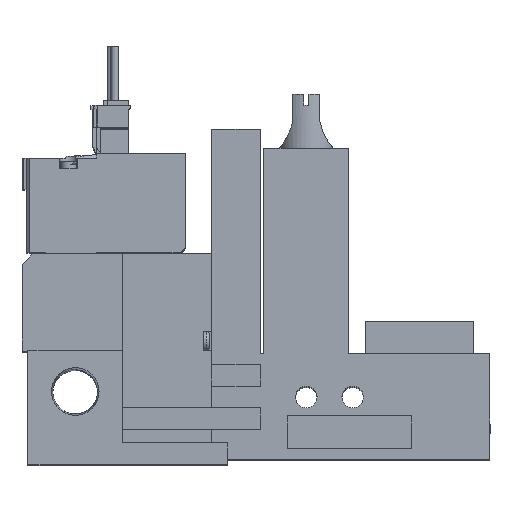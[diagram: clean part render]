
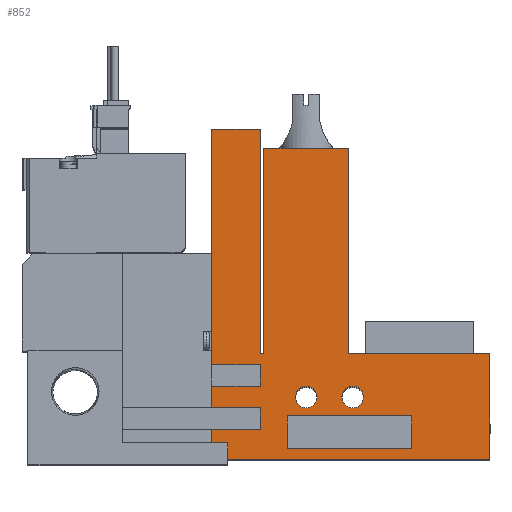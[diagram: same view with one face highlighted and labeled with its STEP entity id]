
A CAD part, top view. The second image highlights one B-rep face of the part: STEP entity #852.
In plain terms, the highlighted planar face has unit normal (0, 0, 1).
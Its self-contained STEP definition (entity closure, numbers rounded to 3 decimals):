
#852=ADVANCED_FACE('',(#1669,#1670,#1671,#1672),#1673,.T.);
#1669=FACE_OUTER_BOUND('',#2768,.T.);
#1670=FACE_BOUND('',#2769,.T.);
#1671=FACE_BOUND('',#2770,.T.);
#1672=FACE_BOUND('',#2771,.T.);
#1673=PLANE('',#2772);
#2768=EDGE_LOOP('',(#5745,#5746,#5747,#5748,#5749,#5750,#5751,#5752,#5753,#5754,#5755,#5756,#5757,#5758,#5759,#5760,#5761,#5762));
#2769=EDGE_LOOP('',(#5763,#5764,#5765,#5766));
#2770=EDGE_LOOP('',(#5767));
#2771=EDGE_LOOP('',(#5768));
#2772=AXIS2_PLACEMENT_3D('',#5769,#5770,#5771);
#5745=ORIENTED_EDGE('',*,*,#7695,.T.);
#5746=ORIENTED_EDGE('',*,*,#7696,.T.);
#5747=ORIENTED_EDGE('',*,*,#7692,.T.);
#5748=ORIENTED_EDGE('',*,*,#7646,.T.);
#5749=ORIENTED_EDGE('',*,*,#7697,.T.);
#5750=ORIENTED_EDGE('',*,*,#7532,.T.);
#5751=ORIENTED_EDGE('',*,*,#7641,.T.);
#5752=ORIENTED_EDGE('',*,*,#7512,.T.);
#5753=ORIENTED_EDGE('',*,*,#7653,.T.);
#5754=ORIENTED_EDGE('',*,*,#7667,.T.);
#5755=ORIENTED_EDGE('',*,*,#7698,.T.);
#5756=ORIENTED_EDGE('',*,*,#7699,.T.);
#5757=ORIENTED_EDGE('',*,*,#7700,.T.);
#5758=ORIENTED_EDGE('',*,*,#7674,.T.);
#5759=ORIENTED_EDGE('',*,*,#7576,.T.);
#5760=ORIENTED_EDGE('',*,*,#7660,.T.);
#5761=ORIENTED_EDGE('',*,*,#7569,.T.);
#5762=ORIENTED_EDGE('',*,*,#7701,.T.);
#5763=ORIENTED_EDGE('',*,*,#7581,.T.);
#5764=ORIENTED_EDGE('',*,*,#7689,.T.);
#5765=ORIENTED_EDGE('',*,*,#7627,.T.);
#5766=ORIENTED_EDGE('',*,*,#7605,.T.);
#5767=ORIENTED_EDGE('',*,*,#7566,.T.);
#5768=ORIENTED_EDGE('',*,*,#7620,.T.);
#5769=CARTESIAN_POINT('',(0.0,0.0,10.0));
#5770=DIRECTION('',(0.0,0.0,1.0));
#5771=DIRECTION('',(1.0,0.0,0.0));
#7512=EDGE_CURVE('',#9083,#9081,#9084,.T.);
#7532=EDGE_CURVE('',#9120,#9121,#9122,.T.);
#7566=EDGE_CURVE('',#9181,#9181,#9182,.T.);
#7569=EDGE_CURVE('',#9188,#9186,#9189,.T.);
#7576=EDGE_CURVE('',#9201,#9199,#9202,.T.);
#7581=EDGE_CURVE('',#9204,#9209,#9211,.T.);
#7605=EDGE_CURVE('',#9247,#9204,#9251,.T.);
#7620=EDGE_CURVE('',#9276,#9276,#9277,.T.);
#7627=EDGE_CURVE('',#9285,#9247,#9289,.T.);
#7641=EDGE_CURVE('',#9121,#9083,#9309,.T.);
#7646=EDGE_CURVE('',#9311,#9315,#9317,.T.);
#7653=EDGE_CURVE('',#9081,#9327,#9329,.T.);
#7660=EDGE_CURVE('',#9199,#9188,#9338,.T.);
#7667=EDGE_CURVE('',#9327,#9348,#9350,.T.);
#7674=EDGE_CURVE('',#9360,#9201,#9361,.T.);
#7689=EDGE_CURVE('',#9209,#9285,#9382,.T.);
#7692=EDGE_CURVE('',#9383,#9311,#9387,.T.);
#7695=EDGE_CURVE('',#9389,#9390,#9391,.T.);
#7696=EDGE_CURVE('',#9390,#9383,#9392,.T.);
#7697=EDGE_CURVE('',#9315,#9120,#9393,.T.);
#7698=EDGE_CURVE('',#9348,#9394,#9395,.T.);
#7699=EDGE_CURVE('',#9394,#9396,#9397,.T.);
#7700=EDGE_CURVE('',#9396,#9360,#9398,.T.);
#7701=EDGE_CURVE('',#9186,#9389,#9399,.T.);
#9081=VERTEX_POINT('',#11627);
#9083=VERTEX_POINT('',#11630);
#9084=LINE('',#11631,#11632);
#9120=VERTEX_POINT('',#11685);
#9121=VERTEX_POINT('',#11686);
#9122=LINE('',#11687,#11688);
#9181=VERTEX_POINT('',#11792);
#9182=CIRCLE('',#11793,2.0);
#9186=VERTEX_POINT('',#11798);
#9188=VERTEX_POINT('',#11801);
#9189=LINE('',#11802,#11803);
#9199=VERTEX_POINT('',#11818);
#9201=VERTEX_POINT('',#11821);
#9202=LINE('',#11822,#11823);
#9204=VERTEX_POINT('',#11826);
#9209=VERTEX_POINT('',#11833);
#9211=LINE('',#11836,#11837);
#9247=VERTEX_POINT('',#11893);
#9251=LINE('',#11899,#11900);
#9276=VERTEX_POINT('',#11937);
#9277=CIRCLE('',#11938,2.0);
#9285=VERTEX_POINT('',#11950);
#9289=LINE('',#11956,#11957);
#9309=LINE('',#11989,#11990);
#9311=VERTEX_POINT('',#11993);
#9315=VERTEX_POINT('',#11999);
#9317=LINE('',#12002,#12003);
#9327=VERTEX_POINT('',#12018);
#9329=LINE('',#12021,#12022);
#9338=LINE('',#12036,#12037);
#9348=VERTEX_POINT('',#12052);
#9350=LINE('',#12055,#12056);
#9360=VERTEX_POINT('',#12072);
#9361=LINE('',#12073,#12074);
#9382=LINE('',#12105,#12106);
#9383=VERTEX_POINT('',#12107);
#9387=LINE('',#12113,#12114);
#9389=VERTEX_POINT('',#12117);
#9390=VERTEX_POINT('',#12118);
#9391=LINE('',#12119,#12120);
#9392=LINE('',#12121,#12122);
#9393=LINE('',#12123,#12124);
#9394=VERTEX_POINT('',#12125);
#9395=LINE('',#12126,#12127);
#9396=VERTEX_POINT('',#12128);
#9397=LINE('',#12129,#12130);
#9398=LINE('',#12131,#12132);
#9399=LINE('',#12133,#12134);
#11627=CARTESIAN_POINT('',(35.1,5.5,10.0));
#11630=CARTESIAN_POINT('',(44.1,5.5,10.0));
#11631=CARTESIAN_POINT('',(0.0,5.5,10.0));
#11632=VECTOR('',#13833,1.0);
#11685=CARTESIAN_POINT('',(35.1,9.5,10.0));
#11686=CARTESIAN_POINT('',(44.1,9.5,10.0));
#11687=CARTESIAN_POINT('',(0.0,9.5,10.0));
#11688=VECTOR('',#13857,1.0);
#11792=CARTESIAN_POINT('',(54.6,11.5,10.0));
#11793=AXIS2_PLACEMENT_3D('',#13910,#13911,#13912);
#11798=CARTESIAN_POINT('',(44.1,61.0,10.0));
#11801=CARTESIAN_POINT('',(44.1,19.5,10.0));
#11802=CARTESIAN_POINT('',(44.1,19.5,10.0));
#11803=VECTOR('',#13915,1.0);
#11818=CARTESIAN_POINT('',(44.75,19.5,10.0));
#11821=CARTESIAN_POINT('',(44.75,57.5,10.0));
#11822=CARTESIAN_POINT('',(44.75,57.5,10.0));
#11823=VECTOR('',#13922,1.0);
#11826=CARTESIAN_POINT('',(49.1,2.0,10.0));
#11833=CARTESIAN_POINT('',(49.1,8.0,10.0));
#11836=CARTESIAN_POINT('',(49.1,0.0,10.0));
#11837=VECTOR('',#13927,1.0);
#11893=CARTESIAN_POINT('',(72.1,2.0,10.0));
#11899=CARTESIAN_POINT('',(0.0,2.0,10.0));
#11900=VECTOR('',#13953,1.0);
#11937=CARTESIAN_POINT('',(63.2,11.5,10.0));
#11938=AXIS2_PLACEMENT_3D('',#13972,#13973,#13974);
#11950=CARTESIAN_POINT('',(72.1,8.0,10.0));
#11956=CARTESIAN_POINT('',(72.1,0.0,10.0));
#11957=VECTOR('',#13981,1.0);
#11989=CARTESIAN_POINT('',(44.1,0.0,10.0));
#11990=VECTOR('',#13997,1.0);
#11993=CARTESIAN_POINT('',(44.1,13.5,10.0));
#11999=CARTESIAN_POINT('',(35.1,13.5,10.0));
#12002=CARTESIAN_POINT('',(0.0,13.5,10.0));
#12003=VECTOR('',#14002,1.0);
#12018=CARTESIAN_POINT('',(35.1,0.0,10.0));
#12021=CARTESIAN_POINT('',(35.1,0.0,10.0));
#12022=VECTOR('',#14009,1.0);
#12036=CARTESIAN_POINT('',(44.75,19.5,10.0));
#12037=VECTOR('',#14018,1.0);
#12052=CARTESIAN_POINT('',(86.6,0.0,10.0));
#12055=CARTESIAN_POINT('',(18.6,0.0,10.0));
#12056=VECTOR('',#14025,1.0);
#12072=CARTESIAN_POINT('',(60.45,57.5,10.0));
#12073=CARTESIAN_POINT('',(60.45,57.5,10.0));
#12074=VECTOR('',#14032,1.0);
#12105=CARTESIAN_POINT('',(0.0,8.0,10.0));
#12106=VECTOR('',#14055,1.0);
#12107=CARTESIAN_POINT('',(44.1,17.5,10.0));
#12113=CARTESIAN_POINT('',(44.1,0.0,10.0));
#12114=VECTOR('',#14058,1.0);
#12117=CARTESIAN_POINT('',(35.1,61.0,10.0));
#12118=CARTESIAN_POINT('',(35.1,17.5,10.0));
#12119=CARTESIAN_POINT('',(35.1,61.0,10.0));
#12120=VECTOR('',#14060,1.0);
#12121=CARTESIAN_POINT('',(0.0,17.5,10.0));
#12122=VECTOR('',#14061,1.0);
#12123=CARTESIAN_POINT('',(35.1,0.0,10.0));
#12124=VECTOR('',#14062,1.0);
#12125=CARTESIAN_POINT('',(86.6,19.5,10.0));
#12126=CARTESIAN_POINT('',(86.6,0.0,10.0));
#12127=VECTOR('',#14063,1.0);
#12128=CARTESIAN_POINT('',(60.45,19.5,10.0));
#12129=CARTESIAN_POINT('',(86.6,19.5,10.0));
#12130=VECTOR('',#14064,1.0);
#12131=CARTESIAN_POINT('',(60.45,19.5,10.0));
#12132=VECTOR('',#14065,1.0);
#12133=CARTESIAN_POINT('',(44.1,61.0,10.0));
#12134=VECTOR('',#14066,1.0);
#13833=DIRECTION('',(-1.0,0.0,0.0));
#13857=DIRECTION('',(1.0,0.0,0.0));
#13910=CARTESIAN_POINT('',(52.6,11.5,10.0));
#13911=DIRECTION('',(0.0,0.0,-1.0));
#13912=DIRECTION('',(1.0,0.0,0.0));
#13915=DIRECTION('',(0.0,1.0,0.0));
#13922=DIRECTION('',(0.0,-1.0,0.0));
#13927=DIRECTION('',(0.0,1.0,0.0));
#13953=DIRECTION('',(-1.0,0.0,0.0));
#13972=CARTESIAN_POINT('',(61.2,11.5,10.0));
#13973=DIRECTION('',(0.0,0.0,-1.0));
#13974=DIRECTION('',(1.0,0.0,0.0));
#13981=DIRECTION('',(0.0,-1.0,0.0));
#13997=DIRECTION('',(0.0,-1.0,0.0));
#14002=DIRECTION('',(-1.0,0.0,0.0));
#14009=DIRECTION('',(0.0,-1.0,0.0));
#14018=DIRECTION('',(-1.0,0.0,0.0));
#14025=DIRECTION('',(1.0,0.0,0.0));
#14032=DIRECTION('',(-1.0,0.0,0.0));
#14055=DIRECTION('',(1.0,0.0,0.0));
#14058=DIRECTION('',(0.0,-1.0,0.0));
#14060=DIRECTION('',(0.0,-1.0,0.0));
#14061=DIRECTION('',(1.0,0.0,0.0));
#14062=DIRECTION('',(0.0,-1.0,0.0));
#14063=DIRECTION('',(0.0,1.0,0.0));
#14064=DIRECTION('',(-1.0,0.0,0.0));
#14065=DIRECTION('',(0.0,1.0,0.0));
#14066=DIRECTION('',(-1.0,0.0,0.0));
